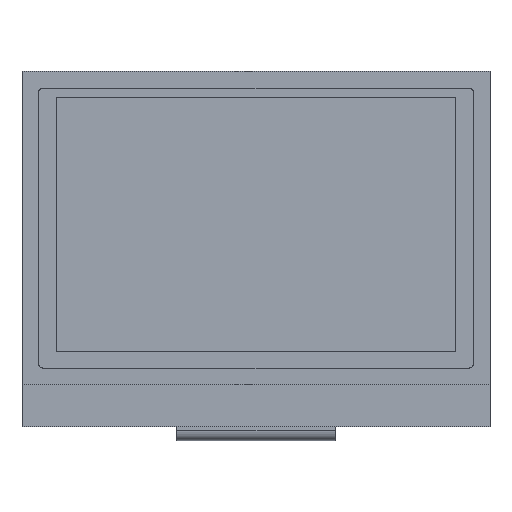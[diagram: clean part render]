
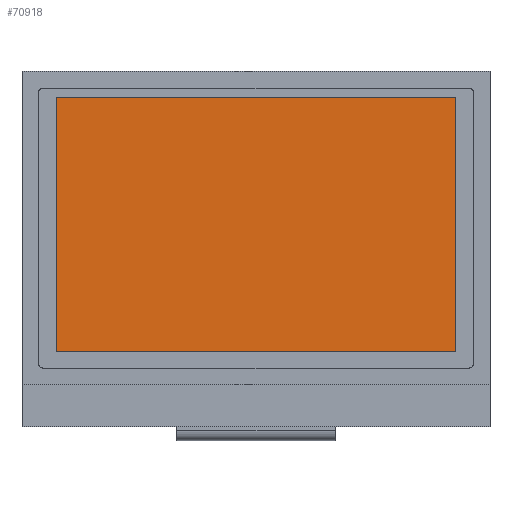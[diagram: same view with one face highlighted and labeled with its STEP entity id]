
A CAD part, top view. The second image highlights one B-rep face of the part: STEP entity #70918.
In plain terms, the highlighted planar face has unit normal (0, 0, 1).
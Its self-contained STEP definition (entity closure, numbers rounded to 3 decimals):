
#7655 = DIRECTION ( 'NONE',  ( 0., -1., 0. ) ) ;
#7742 = VECTOR ( 'NONE', #7655, 1000. ) ;
#10041 = VERTEX_POINT ( 'NONE', #69483 ) ;
#10484 = EDGE_CURVE ( 'NONE', #70268, #60785, #46636, .T. ) ;
#11629 = CARTESIAN_POINT ( 'NONE',  ( 0., -15.145, 1.9 ) ) ;
#16979 = VERTEX_POINT ( 'NONE', #47367 ) ;
#22625 = EDGE_LOOP ( 'NONE', ( #83698, #38996, #84301, #73846 ) ) ;
#25562 = CARTESIAN_POINT ( 'NONE',  ( 0., 15.145, 1.9 ) ) ;
#25990 = LINE ( 'NONE', #25562, #41492 ) ;
#29062 = CARTESIAN_POINT ( 'NONE',  ( 0., 0., 1.9 ) ) ;
#34060 = LINE ( 'NONE', #75956, #7742 ) ;
#34130 = VECTOR ( 'NONE', #87248, 1000. ) ;
#35148 = CARTESIAN_POINT ( 'NONE',  ( -23.88, -15.145, 1.9 ) ) ;
#35410 = DIRECTION ( 'NONE',  ( 0., 1., 0. ) ) ;
#38996 = ORIENTED_EDGE ( 'NONE', *, *, #10484, .F. ) ;
#41236 = EDGE_CURVE ( 'NONE', #60785, #10041, #41777, .T. ) ;
#41492 = VECTOR ( 'NONE', #81137, 1000. ) ;
#41678 = EDGE_CURVE ( 'NONE', #10041, #16979, #25990, .T. ) ;
#41777 = LINE ( 'NONE', #49040, #82209 ) ;
#46415 = PLANE ( 'NONE',  #87565 ) ;
#46636 = LINE ( 'NONE', #11629, #34130 ) ;
#47367 = CARTESIAN_POINT ( 'NONE',  ( 23.88, 15.145, 1.9 ) ) ;
#49040 = CARTESIAN_POINT ( 'NONE',  ( -23.88, 0., 1.9 ) ) ;
#60087 = FACE_OUTER_BOUND ( 'NONE', #22625, .T. ) ;
#60785 = VERTEX_POINT ( 'NONE', #35148 ) ;
#68753 = DIRECTION ( 'NONE',  ( 1., 0., 0. ) ) ;
#69483 = CARTESIAN_POINT ( 'NONE',  ( -23.88, 15.145, 1.9 ) ) ;
#70268 = VERTEX_POINT ( 'NONE', #76364 ) ;
#70918 = ADVANCED_FACE ( 'NONE', ( #60087 ), #46415, .T. ) ;
#73846 = ORIENTED_EDGE ( 'NONE', *, *, #41678, .F. ) ;
#75956 = CARTESIAN_POINT ( 'NONE',  ( 23.88, 0., 1.9 ) ) ;
#76364 = CARTESIAN_POINT ( 'NONE',  ( 23.88, -15.145, 1.9 ) ) ;
#76489 = DIRECTION ( 'NONE',  ( 0., 0., 1. ) ) ;
#81137 = DIRECTION ( 'NONE',  ( 1., 0., 0. ) ) ;
#82209 = VECTOR ( 'NONE', #35410, 1000. ) ;
#83698 = ORIENTED_EDGE ( 'NONE', *, *, #41236, .F. ) ;
#84301 = ORIENTED_EDGE ( 'NONE', *, *, #88312, .F. ) ;
#87248 = DIRECTION ( 'NONE',  ( -1., 0., 0. ) ) ;
#87565 = AXIS2_PLACEMENT_3D ( 'NONE', #29062, #76489, #68753 ) ;
#88312 = EDGE_CURVE ( 'NONE', #16979, #70268, #34060, .T. ) ;
